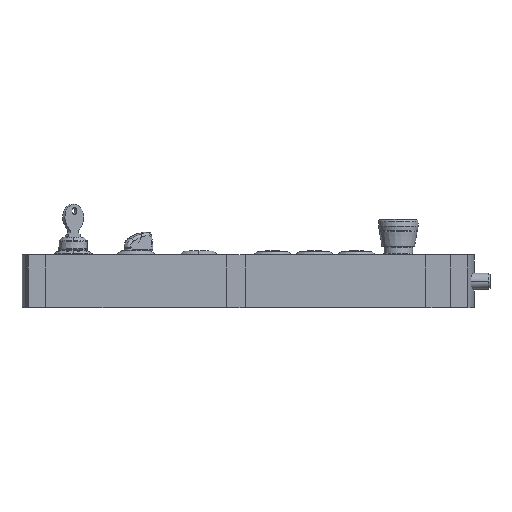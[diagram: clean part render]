
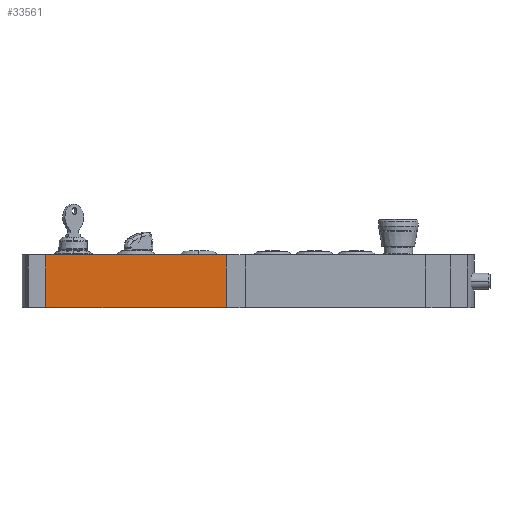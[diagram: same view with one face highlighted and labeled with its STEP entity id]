
A CAD part, left-side view. The second image highlights one B-rep face of the part: STEP entity #33561.
In plain terms, the highlighted planar face has unit normal (-1, 0, 0) as drawn and (0, 0, 1) by its records, which use the part's own axes.
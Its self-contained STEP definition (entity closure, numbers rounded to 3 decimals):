
#2152 = DIRECTION ( 'NONE',  ( -1., 0., 0. ) ) ;
#2343 = CARTESIAN_POINT ( 'NONE',  ( -68.35, 0., 20. ) ) ;
#6001 = DIRECTION ( 'NONE',  ( 1., 0., 0. ) ) ;
#7429 = VECTOR ( 'NONE', #6001, 1000. ) ;
#7731 = CARTESIAN_POINT ( 'NONE',  ( -68.35, 40., 20. ) ) ;
#8059 = LINE ( 'NONE', #32631, #15394 ) ;
#11759 = DIRECTION ( 'NONE',  ( 1., 0., 0. ) ) ;
#13360 = CARTESIAN_POINT ( 'NONE',  ( -68.35, 40., 20. ) ) ;
#15048 = LINE ( 'NONE', #7731, #33795 ) ;
#15394 = VECTOR ( 'NONE', #19984, 1000. ) ;
#16652 = EDGE_LOOP ( 'NONE', ( #36351, #40827, #25121, #20311 ) ) ;
#19984 = DIRECTION ( 'NONE',  ( 0., -1., 0. ) ) ;
#20311 = ORIENTED_EDGE ( 'NONE', *, *, #27835, .T. ) ;
#20917 = LINE ( 'NONE', #2343, #7429 ) ;
#25019 = EDGE_CURVE ( 'NONE', #30530, #39686, #8059, .T. ) ;
#25079 = CARTESIAN_POINT ( 'NONE',  ( 68.35, 0., 20. ) ) ;
#25121 = ORIENTED_EDGE ( 'NONE', *, *, #42491, .F. ) ;
#27296 = CARTESIAN_POINT ( 'NONE',  ( -68.35, 0., 20. ) ) ;
#27469 = EDGE_CURVE ( 'NONE', #41423, #39686, #20917, .T. ) ;
#27835 = EDGE_CURVE ( 'NONE', #30753, #41423, #15048, .T. ) ;
#29067 = DIRECTION ( 'NONE',  ( 0., -1., 0. ) ) ;
#30354 = DIRECTION ( 'NONE',  ( 0., 0., -1. ) ) ;
#30530 = VERTEX_POINT ( 'NONE', #41124 ) ;
#30753 = VERTEX_POINT ( 'NONE', #42922 ) ;
#30814 = VECTOR ( 'NONE', #11759, 1000. ) ;
#32631 = CARTESIAN_POINT ( 'NONE',  ( 68.35, 40., 20. ) ) ;
#33561 = ADVANCED_FACE ( 'NONE', ( #44341 ), #34028, .F. ) ;
#33795 = VECTOR ( 'NONE', #29067, 1000. ) ;
#34028 = PLANE ( 'NONE',  #42957 ) ;
#35885 = CARTESIAN_POINT ( 'NONE',  ( -68.35, 40., 20. ) ) ;
#36351 = ORIENTED_EDGE ( 'NONE', *, *, #27469, .T. ) ;
#39686 = VERTEX_POINT ( 'NONE', #25079 ) ;
#40827 = ORIENTED_EDGE ( 'NONE', *, *, #25019, .F. ) ;
#41124 = CARTESIAN_POINT ( 'NONE',  ( 68.35, 40., 20. ) ) ;
#41423 = VERTEX_POINT ( 'NONE', #27296 ) ;
#42491 = EDGE_CURVE ( 'NONE', #30753, #30530, #42765, .T. ) ;
#42765 = LINE ( 'NONE', #35885, #30814 ) ;
#42922 = CARTESIAN_POINT ( 'NONE',  ( -68.35, 40., 20. ) ) ;
#42957 = AXIS2_PLACEMENT_3D ( 'NONE', #13360, #30354, #2152 ) ;
#44341 = FACE_OUTER_BOUND ( 'NONE', #16652, .T. ) ;
